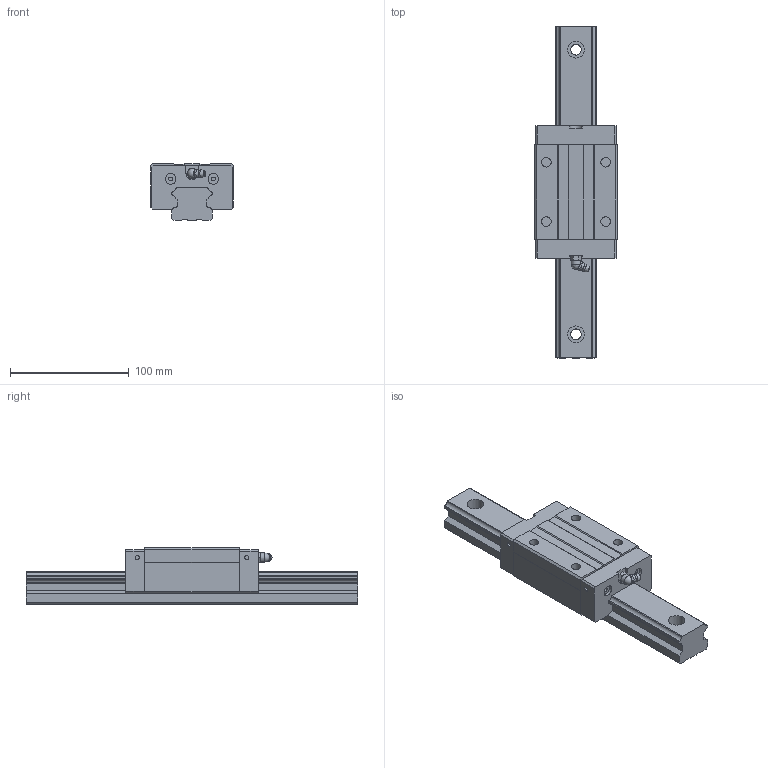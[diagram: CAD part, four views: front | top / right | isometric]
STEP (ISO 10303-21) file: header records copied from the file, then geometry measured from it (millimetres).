
FILE_DESCRIPTION(/* description */ (''),/* implementation_level */ '2;1');
FILE_NAME(/* name */ 'MSB35S',/* time_stamp */ '2005-12-26T17:55:00+08:00',/* author */ (''),/* organization */ (''),/* preprocessor_version */ 'ST-DEVELOPER v9',/* originating_system */ 'UGS - NX 3.0',/* authorisation */ '');
FILE_SCHEMA (('CONFIG_CONTROL_DESIGN'));
Length unit declared in the file: millimetre
Products named in the file (1): kevi37F33h9j
Bounding box: 70 x 280 x 48 mm (x, y, z)
Volume: 450428.1 mm3; surface area: 76205.8 mm2
Topology: 3 solids, 3 shells, 187 faces, 487 edges, 322 vertices
Faces by surface type: plane 129, cylinder 47, torus 7, sphere 2, cone 1, bspline 1
Full cylindrical faces by diameter (mm): 3.3 x8, 8 x5, 9 x8, 14 x4
Entity records: 5725 total; most frequent: CARTESIAN_POINT 1118, DIRECTION 942, ORIENTED_EDGE 894, EDGE_CURVE 447, AXIS2_PLACEMENT_3D 326, VERTEX_POINT 312, LINE 290, VECTOR 290
